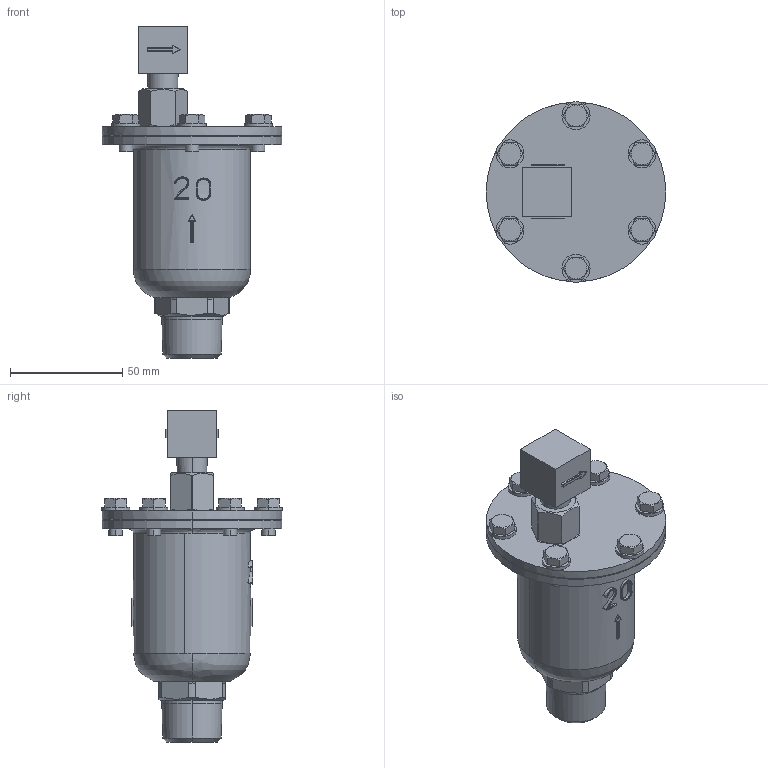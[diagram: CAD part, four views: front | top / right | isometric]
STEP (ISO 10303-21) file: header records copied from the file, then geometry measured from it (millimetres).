
FILE_DESCRIPTION( (''), '2;1');
FILE_NAME ('PC1056.968.TA-16CVA(20A)_17741.stp','2024-08-29T09:39:33',(''),(''),'spGate 19.8.4 (****-****-****-****)','','');
FILE_SCHEMA (('AUTOMOTIVE_DESIGN'));
Length unit declared in the file: millimetre
Bounding box: 80 x 80.5 x 148 mm (x, y, z)
Volume: 95104.2 mm3; surface area: 46577 mm2
Topology: 1 solids, 1 shells, 335 faces, 835 edges, 531 vertices
Faces by surface type: plane 146, bspline 99, cylinder 90
Entity records: 18603 total; most frequent: CARTESIAN_POINT 4864, ORIENTED_EDGE 1670, DIRECTION 1244, COLOUR_RGB 1171, PRESENTATION_STYLE_ASSIGNMENT 1171, STYLED_ITEM 1171, EDGE_CURVE 835, DRAUGHTING_PRE_DEFINED_CURVE_FONT 835
